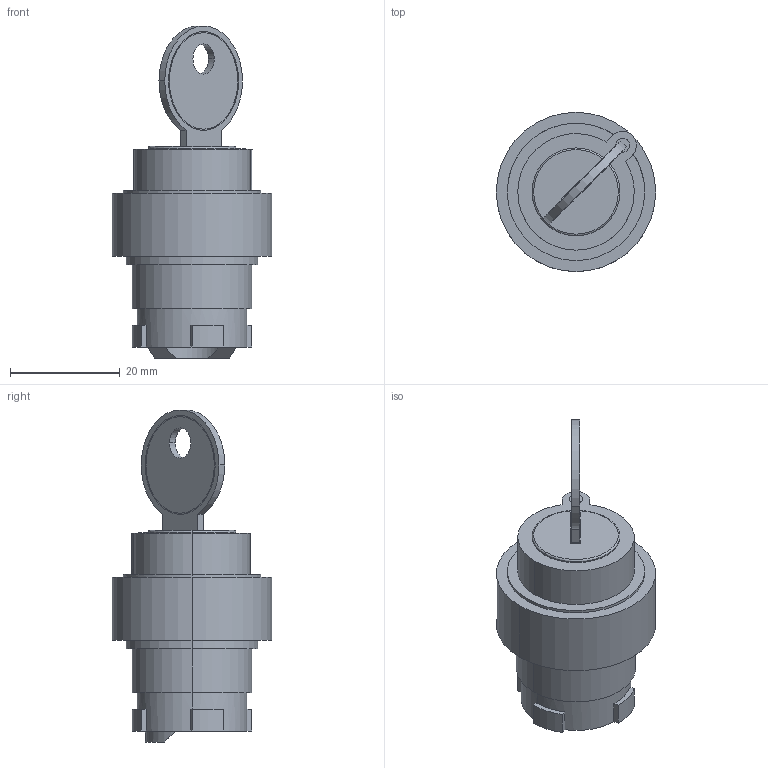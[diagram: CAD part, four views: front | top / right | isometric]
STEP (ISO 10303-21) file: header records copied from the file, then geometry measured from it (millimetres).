
FILE_DESCRIPTION (( 'STEP AP214' ), '1' );
FILE_NAME ('3D 斁麧錪 MTB2-BG2.STEP', '2017-04-19T13:41:16', ( 'adm' ), ( 'MICROSOFT' ), 'SwSTEP 2.0', 'SolidWorks 2011', '' );
FILE_SCHEMA (( 'AUTOMOTIVE_DESIGN' ));
Length unit declared in the file: millimetre
Products named in the file (1): 3D 斁麧錪 MTB2-BG2
Bounding box: 29 x 29 x 60.43 mm (x, y, z)
Volume: 16343.9 mm3; surface area: 6048.7 mm2
Topology: 1 solids, 1 shells, 117 faces, 296 edges, 192 vertices
Faces by surface type: plane 67, cylinder 44, torus 4, cone 2
Entity records: 4868 total; most frequent: DIRECTION 641, CARTESIAN_POINT 618, ORIENTED_EDGE 592, EDGE_CURVE 296, AXIS2_PLACEMENT_3D 231, VERTEX_POINT 192, LINE 179, VECTOR 179
